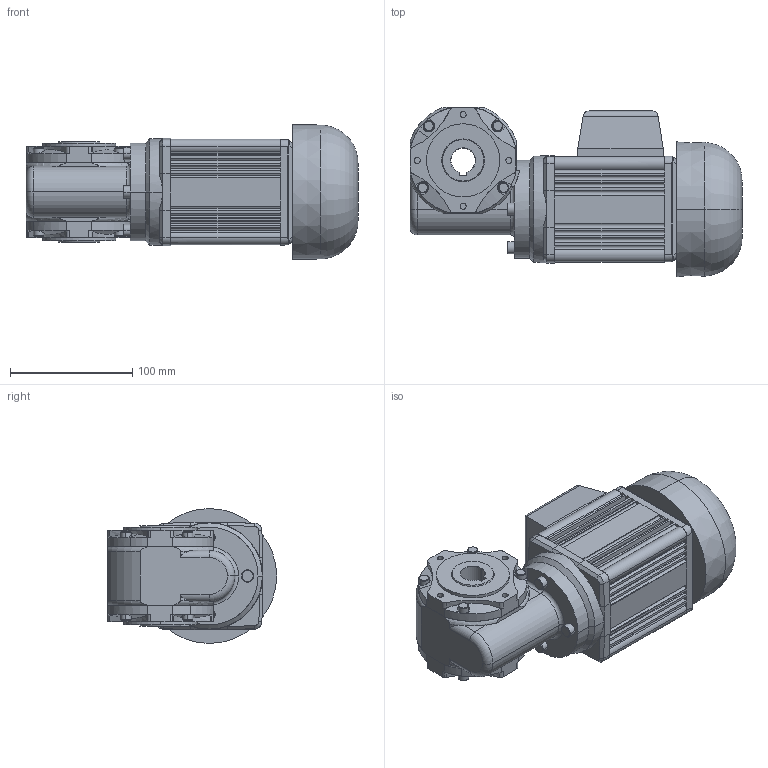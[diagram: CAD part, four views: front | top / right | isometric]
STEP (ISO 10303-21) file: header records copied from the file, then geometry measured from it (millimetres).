
FILE_DESCRIPTION(('OneSpaceDesigner STEP Export'),'2;1');
FILE_NAME('OEG51_GB140_F.stp','2008-06-19T 9:00:23',(''),(''),'OneSpace Designer STEP processor (Jan. 2003) for AP214(CD)(Solid Model)','OneSpace Designer 12.01D 09-Jul-2004 (C) CoCreate Software GmbH','');
FILE_SCHEMA(('AUTOMOTIVE_DESIGN_CC2 {1 2 10303 214 -1 1 5 1}'));
Length unit declared in the file: millimetre
Products named in the file (2): OEG51_GB140_F
Assembly tree (1 placements, depth 2):
  OEG51_GB140_F
    OEG51_GB140_F
Bounding box: 272 x 138.75 x 110.5 mm (x, y, z)
Volume: 2011148.4 mm3; surface area: 156672.1 mm2
Topology: 1 solids, 1 shells, 548 faces, 1435 edges, 904 vertices
Faces by surface type: plane 250, cylinder 206, cone 54, bspline 24, torus 14
Entity records: 24581 total; most frequent: CARTESIAN_POINT 12317, ORIENTED_EDGE 2870, DIRECTION 2078, EDGE_CURVE 1435, VERTEX_POINT 904, VECTOR 742, LINE 742, AXIS2_PLACEMENT_3D 668
